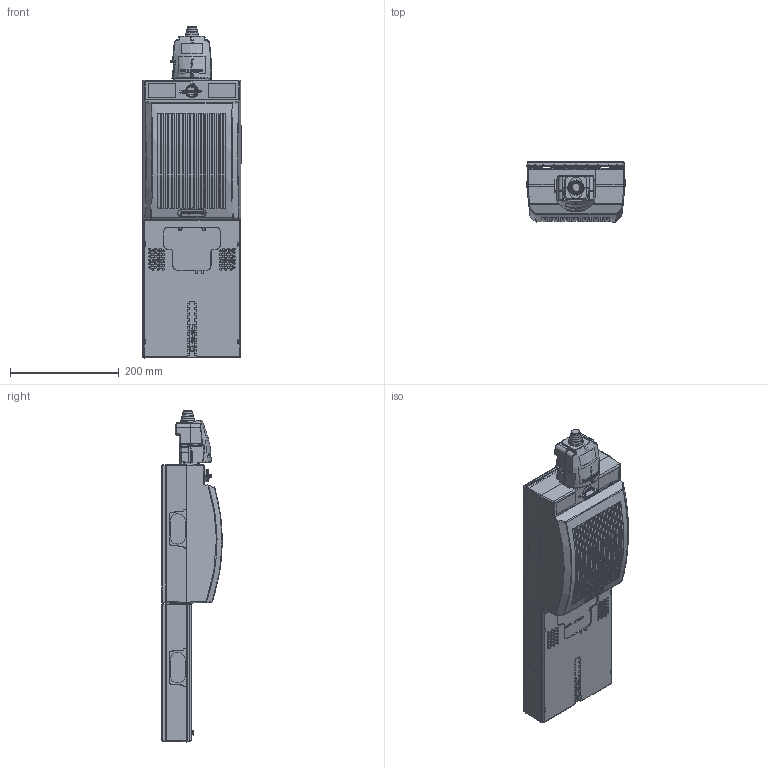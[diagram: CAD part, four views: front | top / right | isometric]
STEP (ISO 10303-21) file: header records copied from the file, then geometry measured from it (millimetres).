
FILE_DESCRIPTION(/* description */ ('Unknown'),/* implementation_level */ '2;1');
FILE_NAME(/* name */ 'PLO',/* time_stamp */ '2026-08-17T10:12:51+02:00',/* author */ ('Unknown'),/* organization */ ('Unknown'),/* preprocessor_version */ 'ST-DEVELOPER v20',/* originating_system */ 'Solid Edge',/* authorisation */ 'Unknown');
FILE_SCHEMA (('CONFIG_CONTROL_DESIGN'));
Products named in the file (10): PLO; deksel groot vlak obo; bak groot 2_02 obo; blindplaat_02 OBO; cover groot_03 obo dummy; knop dummy_1; Stekker bovenkant 2 dicht; invoerrubber dicht_1; stekker dummy onder; schuif_02 dummy_0
Assembly tree (16 placements, depth 2):
  PLO
    deksel groot vlak obo  x3
    bak groot 2_02 obo  x2
    blindplaat_02 OBO  x5
    cover groot_03 obo dummy
    knop dummy_1
    Stekker bovenkant 2 dicht
    invoerrubber dicht_1
    stekker dummy onder
    schuif_02 dummy_0
Bounding box: 180.62 x 110.82 x 609.48 mm (x, y, z)
Volume: 846596.9 mm3; surface area: 829497.8 mm2
Topology: 16 solids, 16 shells, 4222 faces, 11880 edges, 7682 vertices
Faces by surface type: plane 2267, cylinder 976, cone 451, bspline 336, torus 127, sphere 65
Full cylindrical faces by diameter (mm): 5.5 x1, 9 x1, 19 x1
Entity records: 104611 total; most frequent: CARTESIAN_POINT 37952, ORIENTED_EDGE 15192, DIRECTION 11557, EDGE_CURVE 7596, VERTEX_POINT 4902, LINE 4183, VECTOR 4183, AXIS2_PLACEMENT_3D 3687
